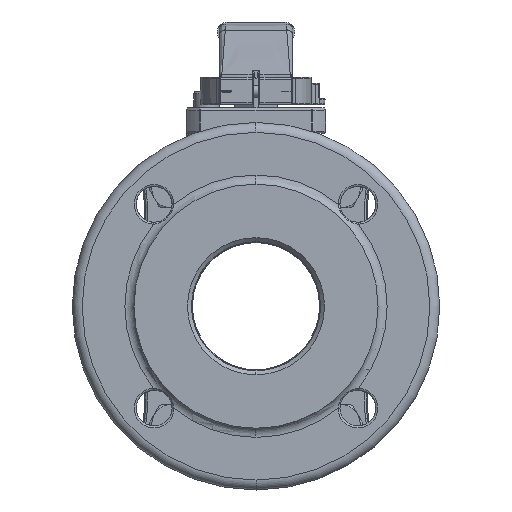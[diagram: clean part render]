
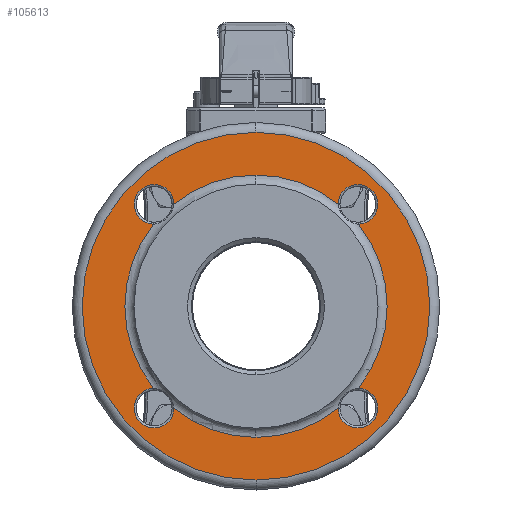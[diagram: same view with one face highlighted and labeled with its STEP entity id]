
A CAD part, left-side view. The second image highlights one B-rep face of the part: STEP entity #105613.
In plain terms, the highlighted planar face has unit normal (-1, 0, 0).
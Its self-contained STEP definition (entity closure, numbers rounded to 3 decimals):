
#31084=CARTESIAN_POINT('',(-62.,0.,0.));
#31085=DIRECTION('',(1.,0.,0.));
#31086=DIRECTION('',(0.,0.,1.));
#31087=AXIS2_PLACEMENT_3D('',#31084,#31085,#31086);
#31099=CARTESIAN_POINT('',(-62.,0.,0.));
#31100=DIRECTION('',(1.,0.,0.));
#31101=DIRECTION('',(0.,0.,-1.));
#31102=AXIS2_PLACEMENT_3D('',#31099,#31100,#31101);
#31117=CARTESIAN_POINT('',(-62.,-51.265,51.265));
#31118=DIRECTION('',(1.,0.,0.));
#31119=DIRECTION('',(0.,1.,0.024));
#31120=AXIS2_PLACEMENT_3D('',#31117,#31118,#31119);
#31137=CARTESIAN_POINT('',(-62.,-51.507,
41.268));
#31226=CARTESIAN_POINT('',(-62.,0.,0.));
#31227=DIRECTION('',(-1.,0.,0.));
#31228=DIRECTION('',(0.,-0.625,0.78));
#31229=AXIS2_PLACEMENT_3D('',#31226,#31227,#31228);
#31231=CARTESIAN_POINT('',(-62.,0.,0.));
#31232=DIRECTION('',(-1.,0.,0.));
#31233=DIRECTION('',(0.,-0.78,-0.625));
#31234=AXIS2_PLACEMENT_3D('',#31231,#31232,#31233);
#31236=CARTESIAN_POINT('',(-62.,0.,0.));
#31237=DIRECTION('',(-1.,0.,0.));
#31238=DIRECTION('',(0.,0.,-1.));
#31239=AXIS2_PLACEMENT_3D('',#31236,#31237,#31238);
#31266=CARTESIAN_POINT('',(-62.,0.,0.));
#31267=DIRECTION('',(-1.,0.,0.));
#31268=DIRECTION('',(0.,0.625,-0.78));
#31269=AXIS2_PLACEMENT_3D('',#31266,#31267,#31268);
#31271=CARTESIAN_POINT('',(-62.,0.,0.));
#31272=DIRECTION('',(-1.,0.,0.));
#31273=DIRECTION('',(0.,0.78,0.625));
#31274=AXIS2_PLACEMENT_3D('',#31271,#31272,#31273);
#31276=CARTESIAN_POINT('',(-62.,0.,0.));
#31277=DIRECTION('',(-1.,0.,0.));
#31278=DIRECTION('',(0.,0.,1.));
#31279=AXIS2_PLACEMENT_3D('',#31276,#31277,#31278);
#31320=CARTESIAN_POINT('',(-62.,51.265,-51.265));
#31321=DIRECTION('',(1.,0.,0.));
#31322=DIRECTION('',(0.,-1.,-0.024));
#31323=AXIS2_PLACEMENT_3D('',#31320,#31321,#31322);
#31329=CARTESIAN_POINT('',(-62.,51.507,
-41.268));
#31491=CARTESIAN_POINT('',(-62.,51.507,
41.268));
#31556=CARTESIAN_POINT('',(-62.,51.265,51.265));
#31557=DIRECTION('',(1.,0.,0.));
#31558=DIRECTION('',(0.,0.024,-1.));
#31559=AXIS2_PLACEMENT_3D('',#31556,#31557,#31558);
#31714=CARTESIAN_POINT('',(-62.,-51.507,
-41.268));
#31779=CARTESIAN_POINT('',(-62.,-51.265,-51.265));
#31780=DIRECTION('',(1.,0.,0.));
#31781=DIRECTION('',(0.,-0.024,1.));
#31782=AXIS2_PLACEMENT_3D('',#31779,#31780,#31781);
#50281=CARTESIAN_POINT('',(-62.,0.,-87.5));
#50282=CARTESIAN_POINT('',(-62.,0.,87.5));
#50283=VERTEX_POINT('',#50281);
#50284=VERTEX_POINT('',#50282);
#52445=VERTEX_POINT('',#31137);
#52454=VERTEX_POINT('',#31491);
#52461=VERTEX_POINT('',#31329);
#52470=VERTEX_POINT('',#31714);
#52509=CARTESIAN_POINT('',(-62.,-41.268,51.507));
#52510=CARTESIAN_POINT('',(-62.,0.,66.));
#52511=VERTEX_POINT('',#52509);
#52512=VERTEX_POINT('',#52510);
#52513=CARTESIAN_POINT('',(-62.,0.,-66.));
#52514=CARTESIAN_POINT('',(-62.,-41.268,-51.507));
#52515=VERTEX_POINT('',#52513);
#52516=VERTEX_POINT('',#52514);
#52517=CARTESIAN_POINT('',(-62.,41.268,-51.507));
#52518=VERTEX_POINT('',#52517);
#52519=CARTESIAN_POINT('',(-62.,41.268,51.507));
#52520=VERTEX_POINT('',#52519);
#105582=CARTESIAN_POINT('',(-62.,0.,0.));
#105583=DIRECTION('',(-1.,0.,0.));
#105584=DIRECTION('',(0.,0.,1.));
#105585=AXIS2_PLACEMENT_3D('',#105582,#105583,#105584);
#105586=PLANE('',#105585);
#105587=ORIENTED_EDGE('',*,*,#105564,.T.);
#105588=ORIENTED_EDGE('',*,*,#105549,.T.);
#105589=EDGE_LOOP('',(#105587,#105588));
#105590=FACE_OUTER_BOUND('',#105589,.F.);
#105592=ORIENTED_EDGE('',*,*,#105591,.F.);
#105594=ORIENTED_EDGE('',*,*,#105593,.T.);
#105596=ORIENTED_EDGE('',*,*,#105595,.T.);
#105598=ORIENTED_EDGE('',*,*,#105597,.F.);
#105600=ORIENTED_EDGE('',*,*,#105599,.T.);
#105602=ORIENTED_EDGE('',*,*,#105601,.F.);
#105604=ORIENTED_EDGE('',*,*,#105603,.T.);
#105606=ORIENTED_EDGE('',*,*,#105605,.T.);
#105608=ORIENTED_EDGE('',*,*,#105607,.F.);
#105610=ORIENTED_EDGE('',*,*,#105609,.T.);
#105611=EDGE_LOOP('',(#105592,#105594,#105596,#105598,#105600,#105602,#105604,
#105606,#105608,#105610));
#105612=FACE_BOUND('',#105611,.F.);
#105613=ADVANCED_FACE('',(#105590,#105612),#105586,.T.);
#31088=CIRCLE('',#31087,87.5);
#31103=CIRCLE('',#31102,87.5);
#31121=CIRCLE('',#31120,10.);
#31230=CIRCLE('',#31229,66.);
#31235=CIRCLE('',#31234,66.);
#31240=CIRCLE('',#31239,66.);
#31270=CIRCLE('',#31269,66.);
#31275=CIRCLE('',#31274,66.);
#31280=CIRCLE('',#31279,66.);
#31324=CIRCLE('',#31323,10.);
#31560=CIRCLE('',#31559,10.);
#31783=CIRCLE('',#31782,10.);
#105549=EDGE_CURVE('',#50284,#50283,#31088,.T.);
#105564=EDGE_CURVE('',#50283,#50284,#31103,.T.);
#105591=EDGE_CURVE('',#52511,#52445,#31121,.T.);
#105593=EDGE_CURVE('',#52511,#52512,#31230,.T.);
#105595=EDGE_CURVE('',#52512,#52520,#31280,.T.);
#105597=EDGE_CURVE('',#52454,#52520,#31560,.T.);
#105599=EDGE_CURVE('',#52454,#52461,#31275,.T.);
#105601=EDGE_CURVE('',#52518,#52461,#31324,.T.);
#105603=EDGE_CURVE('',#52518,#52515,#31270,.T.);
#105605=EDGE_CURVE('',#52515,#52516,#31240,.T.);
#105607=EDGE_CURVE('',#52470,#52516,#31783,.T.);
#105609=EDGE_CURVE('',#52470,#52445,#31235,.T.);
